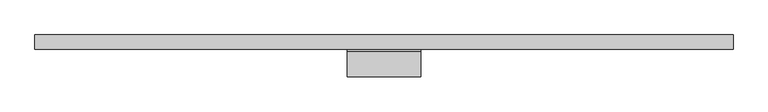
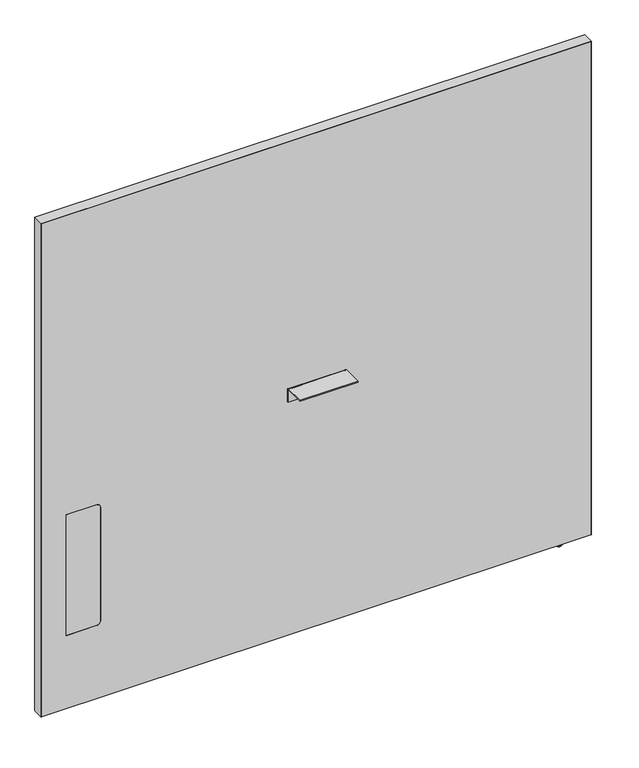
"""IFC4 building model written with IfcOpenShell, lengths in millimetres: furniture geometry, Steelcase - Answer Solution - Boundary Screen - Straight - Single Sided : 54H x 57W."""

from ifc_helpers import new_model, si_unit, point, frame, frame_2d, origin, place, context, project, spatial, polyline, circle_curve, ellipse_curve, trimmed, segment, composite_curve, outline, extrude, source, transform, mapped, element, save
from ifc_brep_helpers import plane_surface, cylinder_surface, revolved_surface, advanced_brep


def furniture_f5a682be(model_context):
    return source(origin(), model_context, "Body", "SolidModel", [
        extrude(outline(composite_curve([segment(polyline([(-86.8398151, 696.4680019), (-86.8398151, 698.5), (-34.9450855, 698.5)]), True, "CONTINUOUS"), segment(trimmed(circle_curve(frame_2d((-34.9450855, 693.2447477)), 5.2552523), [point((-34.9450855, 698.5))], [point((-29.6898332, 693.2447477))], False, "CARTESIAN"), True, "CONTINUOUS"), segment(polyline([(-29.6898332, 693.2447477), (-29.6898332, 660.4), (-31.7218162, 660.4), (-31.7218162, 693.0058743)]), True, "CONTINUOUS"), segment(trimmed(circle_curve(frame_2d((-35.1839438, 693.0058743)), 3.4621276), [point((-31.7218162, 693.0058743))], [point((-35.1839438, 696.4680019))], True, "CARTESIAN"), True, "CONTINUOUS"), segment(polyline([(-35.1839438, 696.4680019), (-86.8398151, 696.4680019)]), True, "CONTINUOUS")], self_intersect=False)), frame((1.2191407, 0.0, 0.0), z_axis=(1.0, 0.0, 0.0), x_axis=(0.0, 1.0, 0.0)), (0.0, 0.0, 1.0), 152.4000969),
        advanced_brep(
        [(724.1286488, -23.7588726, 9.9059849), (724.1286488, -5.9309607, 9.9059849), (724.1286488, -14.8449166, 9.9059849), (724.1286488, -23.7588726, 2.9673238), (724.1286488, -5.9309607, 2.9673238), (724.1286488, -22.7915354, 2.9673238), (724.1286488, -6.8982978, 2.9673238), (724.1286488, -22.7915354, 1.6569081), (724.1286488, -6.8982978, 1.6569081), (724.1286488, -21.1346274, 0.0), (724.1286488, -8.5552059, 0.0), (724.1286488, -14.8449166, 0.0)],
        [
            (0, 1, circle_curve(frame((724.1286488, -14.8449166, 9.9059849), z_axis=(0.0, 0.0, 1.0), x_axis=(0.0, 1.0, 0.0)), 8.913956)),
            (1, 2),
            (2, 0),
            (1, 0, circle_curve(frame((724.1286488, -14.8449166, 9.9059849), z_axis=(0.0, 0.0, 1.0), x_axis=(0.0, 1.0, 0.0)), 8.913956)),
            (3, 4, circle_curve(frame((724.1286488, -14.8449166, 2.9673238), z_axis=(0.0, 0.0, 1.0), x_axis=(0.0, 1.0, 0.0)), 8.913956)),
            (4, 1),
            (0, 3),
            (4, 3, circle_curve(frame((724.1286488, -14.8449166, 2.9673238), z_axis=(0.0, 0.0, 1.0), x_axis=(0.0, 1.0, 0.0)), 8.913956)),
            (5, 6, circle_curve(frame((724.1286488, -14.8449166, 2.9673238), z_axis=(0.0, 0.0, 1.0), x_axis=(0.0, 1.0, 0.0)), 7.9466188)),
            (6, 4),
            (3, 5),
            (6, 5, circle_curve(frame((724.1286488, -14.8449166, 2.9673238), z_axis=(0.0, 0.0, 1.0), x_axis=(0.0, 1.0, 0.0)), 7.9466188)),
            (7, 8, circle_curve(frame((724.1286488, -14.8449166, 1.6569081), z_axis=(0.0, 0.0, 1.0), x_axis=(0.0, 1.0, 0.0)), 7.9466188)),
            (8, 6),
            (5, 7),
            (8, 7, circle_curve(frame((724.1286488, -14.8449166, 1.6569081), z_axis=(0.0, 0.0, 1.0), x_axis=(0.0, 1.0, 0.0)), 7.9466188)),
            (9, 10, circle_curve(frame((724.1286488, -14.8449166, 0.0), z_axis=(0.0, 0.0, 1.0), x_axis=(0.0, 1.0, 0.0)), 6.2897107)),
            (10, 8, circle_curve(frame((724.1286488, -8.5552059, 1.6569081), z_axis=(1.0, 0.0, 0.0), x_axis=(0.0, 1.0, 0.0)), 1.6569081)),
            (7, 9, circle_curve(frame((724.1286488, -21.1346274, 1.6569081), z_axis=(1.0, 0.0, 0.0), x_axis=(0.0, -1.0, 0.0)), 1.6569081)),
            (10, 9, circle_curve(frame((724.1286488, -14.8449166, 0.0), z_axis=(0.0, 0.0, 1.0), x_axis=(0.0, 1.0, 0.0)), 6.2897107)),
            (11, 10),
            (9, 11),
        ],
        [
            plane_surface(frame((724.1286488, -14.8449166, 9.9059849), z_axis=(0.0, 0.0, 1.0), x_axis=(0.0, 1.0, 0.0))),
            cylinder_surface(frame((724.1286488, -14.8449166, 9.9059849), z_axis=(0.0, 0.0, -1.0), x_axis=(0.0, 1.0, 0.0)), 8.913956),
            plane_surface(frame((724.1286488, -14.8449166, 2.9673238), z_axis=(0.0, 0.0, -1.0), x_axis=(0.0, 1.0, 0.0))),
            cylinder_surface(frame((724.1286488, -14.8449166, 9.9059849), z_axis=(0.0, 0.0, -1.0), x_axis=(0.0, 1.0, 0.0)), 7.9466188),
            revolved_surface(trimmed(ellipse_curve(frame((724.1286488, -8.5552059, 1.6569081), z_axis=(-1.0, 0.0, 0.0), x_axis=(0.0, 1.0, 0.0)), 1.6569081, 1.6569081), [point((724.1286488, -6.8982978, 1.6569081))], [point((724.1286488, -8.5552059, 0.0))], True, "CARTESIAN"), (724.1286488, -14.8449166, 9.9059849), (0.0, 0.0, -1.0)),
            plane_surface(frame((724.1286488, -14.8449166, 0.0), z_axis=(0.0, 0.0, -1.0), x_axis=(0.0, 1.0, 0.0))),
        ],
        [
            (0, [[1, 2, 3]]),
            (0, [[4, -3, -2]]),
            (1, [[5, 6, -1, 7]]),
            (1, [[8, -7, -4, -6]]),
            (2, [[9, 10, -5, 11]]),
            (2, [[12, -11, -8, -10]]),
            (3, [[13, 14, -9, 15]]),
            (3, [[16, -15, -12, -14]]),
            (4, [[17, 18, -13, 19]]),
            (4, [[20, -19, -16, -18]]),
            (5, [[21, -17, 22]]),
            (5, [[-22, -20, -21]]),
        ],
    ),
        advanced_brep(
        [(800.2780168, 0.0, 1381.542118), (800.2780168, 0.0, 9.9059849), (-645.4902221, 0.0, 9.9059849), (-645.4902221, 0.0, 1381.542118), (800.2780168, -29.6898332, 1381.542118), (-645.4902221, -29.6898332, 1381.542118), (-645.4902221, -29.6898332, 9.9059849), (800.2780168, -29.6898332, 9.9059849), (-501.1463873, -29.6898332, 549.6162029), (-490.9863873, -29.6898332, 539.4562029), (-490.9863873, -29.6898332, 223.9362137), (-501.1463873, -29.6898332, 213.7762137), (-580.800285, -29.6898332, 213.7762137), (-580.800285, -29.6898332, 549.6162029), (-580.800285, -29.0550397, 549.6162029), (-501.1463873, -29.0550397, 549.6162029), (-580.800285, -29.0550397, 213.7762137), (-501.1463873, -29.0550397, 213.7762137), (-490.9863873, -29.0550397, 223.9362137), (-490.9863873, -29.0550397, 539.4562029)],
        [
            (0, 1),
            (1, 2),
            (2, 3),
            (3, 0),
            (4, 5),
            (5, 6),
            (6, 7),
            (7, 4),
            (8, 9, circle_curve(frame((-501.1463873, -29.6898332, 539.4562029), z_axis=(0.0, 1.0, 0.0), x_axis=(0.0, 0.0, 1.0)), 10.16)),
            (9, 10),
            (10, 11, circle_curve(frame((-501.1463873, -29.6898332, 223.9362137), z_axis=(0.0, 1.0, 0.0), x_axis=(0.0, 0.0, 1.0)), 10.16)),
            (11, 12),
            (12, 13),
            (13, 8),
            (0, 4),
            (7, 1),
            (6, 2),
            (5, 3),
            (13, 14),
            (14, 15),
            (15, 8),
            (12, 16),
            (16, 14),
            (11, 17),
            (17, 16),
            (10, 18),
            (18, 17, circle_curve(frame((-501.1463873, -29.0550397, 223.9362137), z_axis=(0.0, 1.0, 0.0), x_axis=(0.0, 0.0, 1.0)), 10.16)),
            (9, 19),
            (19, 18),
            (15, 19, circle_curve(frame((-501.1463873, -29.0550397, 539.4562029), z_axis=(0.0, 1.0, 0.0), x_axis=(0.0, 0.0, 1.0)), 10.16)),
        ],
        [
            plane_surface(frame((800.2780168, 0.0, 1381.542118), z_axis=(0.0, 1.0, 0.0), x_axis=(0.0, 0.0, -1.0))),
            plane_surface(frame((800.2780168, -29.6898332, 1381.542118), z_axis=(0.0, -1.0, 0.0), x_axis=(0.0, 0.0, 1.0))),
            plane_surface(frame((800.2780168, 0.0, 1381.542118), z_axis=(1.0, 0.0, 0.0), x_axis=(0.0, -1.0, 0.0))),
            plane_surface(frame((800.2780168, 0.0, 9.9059849), z_axis=(0.0, 0.0, -1.0), x_axis=(0.0, -1.0, 0.0))),
            plane_surface(frame((-645.4902221, 0.0, 9.9059849), z_axis=(-1.0, 0.0, 0.0), x_axis=(0.0, -1.0, 0.0))),
            plane_surface(frame((-645.4902221, 0.0, 1381.542118), z_axis=(0.0, 0.0, 1.0), x_axis=(0.0, -1.0, 0.0))),
            plane_surface(frame((-501.1463873, 0.0, 549.6162029), z_axis=(0.0, 0.0, -1.0), x_axis=(0.0, -1.0, 0.0))),
            plane_surface(frame((-580.800285, 0.0, 549.6162029), z_axis=(1.0, 0.0, 0.0), x_axis=(0.0, -1.0, 0.0))),
            plane_surface(frame((-580.800285, 0.0, 213.7762137), z_axis=(0.0, 0.0, 1.0), x_axis=(0.0, -1.0, 0.0))),
            revolved_surface(polyline([(-501.1463873, -29.6898332, 234.0962137), (-501.1463873, -29.0550397, 234.0962137)]), (-501.1463873, -29.6898332, 223.9362137), (0.0, -1.0, 0.0)),
            plane_surface(frame((-490.9863873, 0.0, 223.9362137), z_axis=(-1.0, 0.0, 0.0), x_axis=(0.0, -1.0, 0.0))),
            revolved_surface(polyline([(-501.1463873, -29.6898332, 549.6162029), (-501.1463873, -29.0550397, 549.6162029)]), (-501.1463873, -29.6898332, 539.4562029), (0.0, -1.0, 0.0)),
            plane_surface(frame((-490.9863873, -29.0550397, 629.172953), z_axis=(0.0, -1.0, 0.0), x_axis=(0.0, 0.0, 1.0))),
        ],
        [
            (0, [[1, 2, 3, 4]]),
            (1, [[5, 6, 7, 8], [9, 10, 11, 12, 13, 14]]),
            (2, [[-1, 15, -8, 16]]),
            (3, [[-2, -16, -7, 17]]),
            (4, [[-3, -17, -6, 18]]),
            (5, [[-4, -18, -5, -15]]),
            (6, [[-14, 19, 20, 21]]),
            (7, [[-13, 22, 23, -19]]),
            (8, [[-12, 24, 25, -22]]),
            (9, [[-11, 26, 27, -24]]),
            (10, [[-10, 28, 29, -26]]),
            (11, [[-9, -21, 30, -28]]),
            (12, [[-20, -23, -25, -27, -29, -30]]),
        ],
    ),
        extrude(outline(composite_curve([segment(polyline([(549.6162029, -501.1463873), (549.6162029, -580.800285), (213.7762137, -580.800285), (213.7762137, -501.1463873)]), True, "CONTINUOUS"), segment(trimmed(circle_curve(frame_2d((223.9362137, -501.1463873)), 10.16), [point((213.7762137, -501.1463873))], [point((223.9362137, -490.9863873))], False, "CARTESIAN"), True, "CONTINUOUS"), segment(polyline([(223.9362137, -490.9863873), (539.4562029, -490.9863873)]), True, "CONTINUOUS"), segment(trimmed(circle_curve(frame_2d((539.4562029, -501.1463873)), 10.16), [point((539.4562029, -490.9863873))], [point((549.6162029, -501.1463873))], False, "CARTESIAN"), True, "CONTINUOUS")], self_intersect=False)), frame((0.0, -29.6898332, 0.0), z_axis=(0.0, 1.0, 0.0), x_axis=(0.0, 0.0, 1.0)), (0.0, 0.0, 1.0), 0.6347935),
        extrude(outline(polyline([(1382.522, 801.3191891), (1382.522, -646.4808109), (9.9059849, -646.4808109), (9.9059849, -645.4902221), (1381.542118, -645.4902221), (1381.542118, 800.2780168), (9.9059849, 800.2780168), (9.9059849, 801.3191891), (1382.522, 801.3191891)])), frame((0.0, -29.6898332, 0.0), z_axis=(0.0, 1.0, 0.0), x_axis=(0.0, 0.0, 1.0)), (0.0, 0.0, 1.0), 29.6898332),
    ])


if __name__ == "__main__":
    model = new_model("IFC4")
    model_context = context("Model", 3, world=origin())
    ifc_project = project(units=[si_unit("LENGTHUNIT", "METRE", prefix="MILLI")], contexts=[model_context])
    site = spatial("IfcSite", under=ifc_project)
    building = spatial("IfcBuilding", under=site)
    placement = place(None, origin())
    furniture_shape = furniture_f5a682be(model_context)
    element("IfcFurniture", 1, ObjectType="Steelcase - Answer Solution - Boundary Screen - Straight - Single Sided : 54H x 57W", at=placement, inside=building, context=model_context, shape_type="MappedRepresentation", body=[
        mapped(furniture_shape, transform((0.0, 0.0, 0.0), x_axis=(1.0, 0.0, 0.0), y_axis=(0.0, 1.0, 0.0), z_axis=(0.0, 0.0, 1.0))),
    ])
    save(model, "model.ifc")
